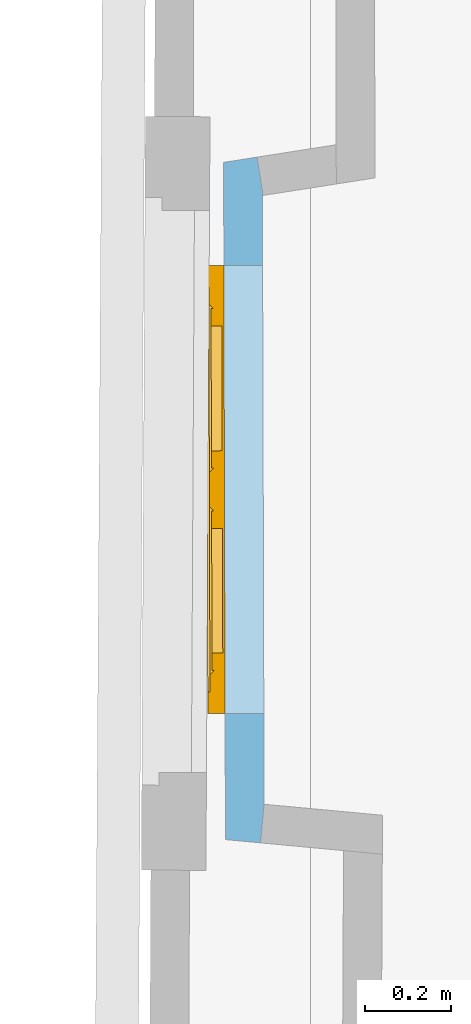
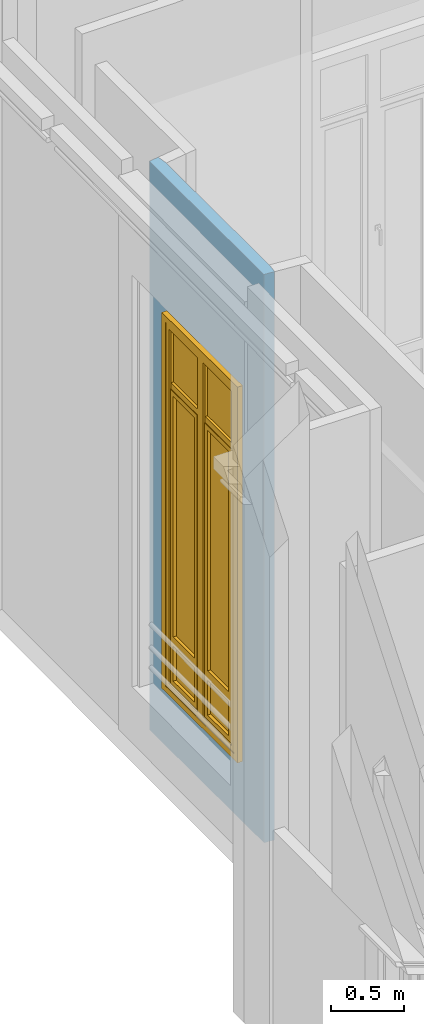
# One storey, part 49 of 97: 1 window, 2 openings, plus 1 element that does not belong to this part.
"""IFC2X3 building model written with IfcOpenShell, lengths in centimetres."""

from ifc_helpers import new_model, entity, si_unit, converted_unit, direction, frame, origin, origin_with_axes, place, context, subcontext, project, spatial, polyline, outline, extrude, faceted_brep, shape, source, transform, mapped, material, material_list, layer, layer_set, layer_usage, type_object, element, fill, save


model = new_model("IFC2X3")

# Units and contexts
model_context = context("Model", 3, precision=0.0001, world=origin(), true_north=direction((0.225632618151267, 0.974212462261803, 0.0)))
body_context = subcontext(model_context, "Body", "Model", "MODEL_VIEW")
footprint_context = subcontext(model_context, "FootPrint", "Model", "MODEL_VIEW")
profile_context = subcontext(model_context, "Profile", "Model", "MODEL_VIEW")
ifc_project = project(units=[si_unit("LENGTHUNIT", "METRE", prefix="CENTI"), si_unit("AREAUNIT", "SQUARE_METRE", prefix="CENTI"), si_unit("VOLUMEUNIT", "CUBIC_METRE", prefix="CENTI"), converted_unit("PLANEANGLEUNIT", "DEGREE", entity("IfcRatioMeasure", 0.0174532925), si_unit("PLANEANGLEUNIT", "RADIAN"), dimensions=[0, 0, 0, 0, 0, 0, 0])], contexts=[model_context])

# Site, building, storey
site_placement = place(None, origin_with_axes())
site = spatial("IfcSite", under=ifc_project, at=site_placement, Name="Default Site", CompositionType="ELEMENT")
building_placement = place(site_placement, origin_with_axes())
building = spatial("IfcBuilding", under=site, at=building_placement, Name="Default Building", CompositionType="ELEMENT")
storey_placement = place(building_placement, origin_with_axes())
storey = spatial("IfcBuildingStorey", under=building, at=storey_placement, Name="Rez-de-chaussée", CompositionType="ELEMENT", Elevation=0.0)

# Wall, openings, window
ifc_material_1 = material(Name="<aucun>")
ifc_layer = layer(ifc_material_1, 9.0)
ifc_layer_set = layer_set([ifc_layer], Name="default")
ifc_layer_usage = layer_usage(ifc_layer_set, "AXIS2", "POSITIVE", -4.5)
wall_type = type_object("IfcWallType", Name="default 90", PredefinedType="NOTDEFINED", material=ifc_layer_set)
wall_placement = place(storey_placement, frame((-1235.89489625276, 383.681081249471, 0.0128503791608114), z_axis=(0.0, 0.0, 1.0), x_axis=(-0.00272817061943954, 0.999996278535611, 0.0)))
wall = element("IfcWallStandardCase", 1, at=wall_placement, inside=storey, type_object=wall_type, material=ifc_layer_usage, Name="Enveloppe 668042", context=body_context, shape_type="SweptSolid", body=[
    extrude(outline(polyline([(153.053939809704, 4.49999999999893), (-4.16995399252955, 4.50000000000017), (-4.95028015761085, -3.64130513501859), (4.00866191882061, -4.49999999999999), (146.373623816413, -4.50000000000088), (154.252029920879, -3.28800236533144), (153.053939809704, 4.49999999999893)])), frame((0.0, 0.0, -5.42101086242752e-18), z_axis=(0.0, 0.0, 1.0), x_axis=(1.0, 0.0, 0.0)), (0.0, 0.0, 1.0), 477.795358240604),
])
opening_1_placement = place(wall_placement, frame((16.1122693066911, -2.27373675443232e-13, 0.0), z_axis=(0.0, 0.0, 1.0), x_axis=(-1.0, 4.64689051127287e-15, 0.0)))
cartesian_point_1 = entity("IfcCartesianPoint", [0.0, 0.0, 50.0])
cartesian_point_2 = entity("IfcCartesianPoint", [-122.0, -4.49999999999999])
element("IfcOpeningElement", 2, at=opening_1_placement, cuts=wall, Name="Baie 30045", ObjectType="Recess", shapes=[
    shape(body_context, "Body", "Brep", [faceted_brep([(1.09622209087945e-05, 24.5000024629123, -4.62607735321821e-10), (-122.000016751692, 24.5000024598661, -4.62607735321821e-10), (-122.000016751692, 24.5000024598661, 50.0000003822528), (1.09622209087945e-05, 24.5000024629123, 50.0000003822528), (1.09627452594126e-05, 3.50001586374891, 50.0000003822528), (1.09627452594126e-05, 3.50001586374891, -4.62607735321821e-10), (1.14003323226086e-05, 3.50001586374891, -4.62607735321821e-10), (-121.999992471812, 3.50002035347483, -4.62607735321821e-10), (-122.000016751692, 24.5000070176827, -4.62607735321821e-10), (-122.000016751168, 3.50002035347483, -4.62607735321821e-10), (-122.000016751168, 3.50002035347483, 50.0000003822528), (-122.000016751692, 24.5000070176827, 50.0000003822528), (-121.999992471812, 3.50002035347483, 50.0000003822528), (1.14003323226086e-05, 3.50001586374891, 50.0000003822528), (1.14003323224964e-05, 3.50002035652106, -4.62607735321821e-10), (1.14003323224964e-05, 3.50002035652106, 50.0000003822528)], [[[0, 1, 2, 3]], [[3, 4, 5, 0]], [[0, 6, 7, 8]], [[8, 9, 10, 11]], [[11, 12, 13, 3]], [[12, 7, 14, 15]]])]),
    shape(profile_context, "Profile", "GeometricCurveSet", [entity("IfcGeometricCurveSet", [entity("IfcPolyline", [cartesian_point_1, entity("IfcCartesianPoint", [0.0, 0.0, 0.0]), entity("IfcCartesianPoint", [-122.0, 0.0, 0.0]), entity("IfcCartesianPoint", [-122.0, 0.0, 50.0]), cartesian_point_1])])]),
    shape(footprint_context, "FootPrint", "GeometricCurveSet", [entity("IfcGeometricCurveSet", [entity("IfcPolyline", [cartesian_point_2, entity("IfcCartesianPoint", [0.0, -4.49999999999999]), entity("IfcCartesianPoint", [-8.88178419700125e-14, 4.49999999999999]), entity("IfcCartesianPoint", [-122.0, 4.50000000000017]), cartesian_point_2])])]),
])
opening_2_placement = place(wall_placement, frame((25.1095202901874, -2.27373675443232e-13, 50.7151902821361), z_axis=(0.0, 0.0, 1.0), x_axis=(-1.0, 4.64689051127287e-15, 0.0)))
cartesian_point_3 = entity("IfcCartesianPoint", [-8.88178419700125e-14, 0.0, 316.0])
cartesian_point_4 = entity("IfcCartesianPoint", [-104.0, -4.49999999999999])
opening_2 = element("IfcOpeningElement", 3, at=opening_2_placement, cuts=wall, Name="4294966454_11", ObjectType="Opening", shapes=[
    shape(body_context, "Body", "SweptSolid", [extrude(outline(polyline([(8.88178419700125e-14, 316.0), (8.88178419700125e-14, 1.11022302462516e-14), (104.0, 1.11022302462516e-14), (104.0, 316.0), (8.88178419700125e-14, 316.0)])), frame((0.0, -14.5, 0.0), z_axis=(0.0, 1.0, 0.0), x_axis=(-1.0, 0.0, 0.0)), (0.0, 0.0, 1.0), 29.0)]),
    shape(profile_context, "Profile", "GeometricCurveSet", [entity("IfcGeometricCurveSet", [entity("IfcPolyline", [cartesian_point_3, entity("IfcCartesianPoint", [-8.88178419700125e-14, 0.0, 1.11022302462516e-14]), entity("IfcCartesianPoint", [-104.0, -1.77635683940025e-13, 1.11022302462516e-14]), entity("IfcCartesianPoint", [-104.0, -1.77635683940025e-13, 316.0]), cartesian_point_3])])]),
    shape(footprint_context, "FootPrint", "GeometricCurveSet", [entity("IfcGeometricCurveSet", [entity("IfcPolyline", [cartesian_point_4, entity("IfcCartesianPoint", [-8.88178419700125e-14, -4.49999999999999]), entity("IfcCartesianPoint", [0.0, 4.49999999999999]), entity("IfcCartesianPoint", [-104.0, 4.49999999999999]), cartesian_point_4])])]),
])
ifc_material_2 = material(Name="Transparent")
ifc_material_3 = material(Name="Blanc trafic")
ifc_material_4 = material(Name="Aluminium satiné")
ifc_material_5 = material(Name="Blanc trafic")
ifc_material_list = material_list([ifc_material_2, ifc_material_3, ifc_material_4, ifc_material_5])
window_style = type_object("IfcWindowStyle", Name="FN[R] 2VB[2V] MM", ConstructionType="NOTDEFINED", OperationType="NOTDEFINED", ParameterTakesPrecedence=False, Sizeable=False, material=ifc_material_list)
shared_shape = source(origin_with_axes(), body_context, "Body", "Brep", [
    faceted_brep([(-46.9999998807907, 310.999989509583, -3.99999991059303), (-46.9999998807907, 310.999989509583, 3.99999991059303), (-46.9999998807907, 5.00000007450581, 3.99999991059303), (-46.9999998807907, 5.00000007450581, -3.99999991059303), (-51.9999980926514, 316.000008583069, 3.99999991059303), (-51.9999980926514, 1.11022302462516e-14, 3.99999991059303), (-51.9999980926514, 316.000008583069, -3.99999991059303), (-51.9999980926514, 1.11022302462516e-14, -3.99999991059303), (46.9999998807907, 5.0000000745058, 3.99999991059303), (46.9999998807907, 5.0000000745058, -3.99999991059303), (51.9999980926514, 1.11022302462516e-14, 3.99999991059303), (46.9999998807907, 5.00000007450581, 3.99999991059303), (51.9999980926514, 1.11022302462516e-14, -3.99999991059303), (46.9999998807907, 5.00000007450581, -3.99999991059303), (46.9999998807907, 310.999989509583, 3.99999991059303), (46.9999998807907, 310.999989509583, -3.99999991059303), (51.9999980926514, 316.000008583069, 3.99999991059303), (51.9999980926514, 316.000008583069, -3.99999991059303)], [[[0, 1, 2, 3]], [[1, 4, 5, 2]], [[4, 6, 7, 5]], [[6, 0, 3, 7]], [[3, 2, 8, 9]], [[2, 5, 10, 11]], [[5, 7, 12, 10]], [[7, 3, 13, 12]], [[13, 11, 14, 15]], [[11, 10, 16, 14]], [[10, 12, 17, 16]], [[12, 13, 15, 17]], [[15, 14, 1, 0]], [[14, 16, 4, 1]], [[16, 17, 6, 4]], [[17, 15, 0, 6]]]),
    faceted_brep([(-43.0000007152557, 306.99999332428, -3.50000001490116), (-41.9999997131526, 305.999994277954, -2.49999901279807), (-41.9999997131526, 10.0000001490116, -2.49999901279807), (-43.0000007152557, 9.00000035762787, -3.50000001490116), (-41.9999986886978, 305.999994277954, -2.5000000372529), (-41.9999986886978, 305.999994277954, 3.50000001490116), (-41.9999986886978, 10.0000001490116, 3.50000001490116), (-41.9999986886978, 10.0000001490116, -2.5000000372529), (-46.9999998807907, 310.999989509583, 3.50000001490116), (-46.9999998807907, 5.00000007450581, 3.50000001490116), (-46.9999998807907, 310.999989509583, -3.50000001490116), (-46.9999998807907, 5.00000007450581, -3.50000001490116), (-41.9999986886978, 10.0000002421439, -2.50000013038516), (-5.00000007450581, 10.0000002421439, -2.50000013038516), (-3.99999991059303, 9.00000035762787, -3.50000001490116), (-5.00000007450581, 10.0000001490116, 3.50000001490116), (-5.00000007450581, 10.0000001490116, -2.5000000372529), (5.55111512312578e-15, 5.00000007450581, 3.50000001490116), (5.55111512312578e-15, 5.00000007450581, -3.50000001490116), (-4.99999998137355, 10.0000001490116, -2.49999994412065), (-4.99999998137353, 305.999994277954, -2.49999994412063), (-3.99999991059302, 306.99999332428, -3.50000001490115), (-5.00000007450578, 305.999994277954, 3.50000001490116), (-5.00000007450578, 305.999994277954, -2.5000000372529), (2.22044604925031e-14, 310.999989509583, 3.50000001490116), (-5.00000007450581, 305.999994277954, 3.50000001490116), (2.22044599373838e-14, 310.999989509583, -3.50000001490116), (2.22044599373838e-14, 310.999989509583, 3.50000001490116), (-3.99999991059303, 306.99999332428, -3.50000001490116), (2.22044604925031e-14, 310.999989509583, -3.50000001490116), (-5.00000007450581, 305.999993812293, -2.5000005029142), (-41.9999986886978, 305.999993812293, -2.5000005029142), (-5.00000007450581, 305.999994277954, -2.5000000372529)], [[[0, 1, 2, 3]], [[4, 5, 6, 7]], [[5, 8, 9, 6]], [[8, 10, 11, 9]], [[10, 0, 3, 11]], [[3, 12, 13, 14]], [[7, 6, 15, 16]], [[6, 9, 17, 15]], [[9, 11, 18, 17]], [[11, 3, 14, 18]], [[14, 19, 20, 21]], [[16, 15, 22, 23]], [[15, 17, 24, 25]], [[17, 18, 26, 27]], [[18, 14, 28, 29]], [[28, 30, 31, 0]], [[32, 25, 5, 4]], [[25, 24, 8, 5]], [[24, 29, 10, 8]], [[29, 28, 0, 10]]]),
    faceted_brep([(-5.00000007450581, 305.999994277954, -0.499999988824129), (-5.00000007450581, 262.350010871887, -0.499999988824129), (-41.9999986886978, 262.350010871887, -0.499999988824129), (-41.9999986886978, 305.999994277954, -0.499999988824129), (-41.9999986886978, 305.999994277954, 0.499999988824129), (-41.9999986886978, 262.350010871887, 0.499999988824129), (-5.00000007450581, 262.350010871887, 0.499999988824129), (-5.00000007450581, 305.999994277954, 0.499999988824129)], [[[0, 1, 2, 3]], [[4, 5, 6, 7]], [[3, 2, 5, 4]], [[2, 1, 6, 5]], [[1, 0, 7, 6]], [[0, 3, 4, 7]]]),
    faceted_brep([(-5.00000007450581, 257.349991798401, 2.5000000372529), (-5.00000007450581, 257.349991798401, -2.5000000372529), (-5.00000007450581, 262.350010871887, -2.5000000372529), (-5.00000007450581, 262.350010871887, 2.5000000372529), (-41.9999986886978, 262.350010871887, 2.5000000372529), (-41.9999986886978, 262.350010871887, -2.5000000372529), (-41.9999986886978, 257.349991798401, -2.5000000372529), (-41.9999986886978, 257.349991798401, 2.5000000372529)], [[[0, 1, 2, 3]], [[4, 5, 6, 7]], [[3, 2, 5, 4]], [[2, 1, 6, 5]], [[1, 0, 7, 6]], [[0, 3, 4, 7]]]),
    faceted_brep([(-37.9999995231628, 253.349995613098, -2.99999993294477), (-37.9999995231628, 253.349995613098, 2.99999993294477), (-37.9999995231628, 51.1025011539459, 2.99999993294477), (-37.9999995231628, 51.1025011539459, -2.99999993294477), (-41.9999986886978, 257.349991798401, 2.99999993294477), (-41.9999986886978, 47.1024990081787, 2.99999993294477), (-41.9999986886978, 257.349991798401, -2.99999993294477), (-41.9999986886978, 47.1024990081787, -2.99999993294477), (-9.00000035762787, 51.1025011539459, 2.99999993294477), (-9.00000035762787, 51.1025011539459, -2.99999993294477), (-5.00000007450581, 47.1024990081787, 2.99999993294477), (-5.00000007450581, 47.1024990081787, -2.99999993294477), (-9.00000035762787, 253.349995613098, 2.99999993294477), (-9.00000035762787, 253.349995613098, -2.99999993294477), (-5.00000007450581, 257.349991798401, 2.99999993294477), (-5.00000007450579, 257.349991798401, -2.99999993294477), (-5.00000007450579, 257.349991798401, 2.99999993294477), (-5.00000007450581, 257.349991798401, -2.99999993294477)], [[[0, 1, 2, 3]], [[1, 4, 5, 2]], [[4, 6, 7, 5]], [[6, 0, 3, 7]], [[3, 2, 8, 9]], [[2, 5, 10, 8]], [[5, 7, 11, 10]], [[7, 3, 9, 11]], [[9, 8, 12, 13]], [[8, 10, 14, 12]], [[10, 11, 15, 16]], [[11, 9, 13, 17]], [[13, 12, 1, 0]], [[12, 14, 4, 1]], [[14, 17, 6, 4]], [[17, 13, 0, 6]]]),
    faceted_brep([(-9.00000035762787, 253.349995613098, -0.499999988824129), (-9.00000035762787, 51.1025011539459, -0.499999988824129), (-37.9999995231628, 51.1025011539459, -0.499999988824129), (-37.9999995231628, 253.349995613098, -0.499999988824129), (-37.9999995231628, 253.349995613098, 0.499999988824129), (-37.9999995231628, 51.1025011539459, 0.499999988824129), (-9.00000035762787, 51.1025011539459, 0.499999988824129), (-9.00000035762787, 253.349995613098, 0.499999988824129), (-9.00000035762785, 253.349995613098, -0.499999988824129), (-9.00000035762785, 253.349995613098, 0.499999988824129)], [[[0, 1, 2, 3]], [[4, 5, 6, 7]], [[3, 2, 5, 4]], [[2, 1, 6, 5]], [[1, 8, 9, 6]], [[0, 3, 4, 7]]]),
    faceted_brep([(-37.9999995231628, 43.1024998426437, -2.99999993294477), (-37.9999995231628, 43.1024998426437, 2.99999993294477), (-37.9999995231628, 14.0000000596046, 2.99999993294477), (-37.9999995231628, 14.0000000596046, -2.99999993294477), (-41.9999986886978, 47.1024990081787, 2.99999993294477), (-41.9999986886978, 10.0000001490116, 2.99999993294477), (-41.9999986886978, 47.1024990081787, -2.99999993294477), (-41.9999986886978, 10.0000001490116, -2.99999993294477), (-9.00000035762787, 14.0000000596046, 2.99999993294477), (-9.00000035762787, 14.0000000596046, -2.99999993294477), (-5.00000007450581, 10.0000001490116, 2.99999993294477), (-5.00000007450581, 10.0000001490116, -2.99999993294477), (-9.00000035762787, 43.1024998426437, 2.99999993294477), (-9.00000035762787, 43.1024998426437, -2.99999993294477), (-5.00000007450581, 47.1024990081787, 2.99999993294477), (-5.00000007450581, 47.1024990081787, -2.99999993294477)], [[[0, 1, 2, 3]], [[1, 4, 5, 2]], [[4, 6, 7, 5]], [[6, 0, 3, 7]], [[3, 2, 8, 9]], [[2, 5, 10, 8]], [[5, 7, 11, 10]], [[7, 3, 9, 11]], [[9, 8, 12, 13]], [[8, 10, 14, 12]], [[10, 11, 15, 14]], [[11, 9, 13, 15]], [[13, 12, 1, 0]], [[12, 14, 4, 1]], [[14, 15, 6, 4]], [[15, 13, 0, 6]]]),
    faceted_brep([(-9.00000035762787, 43.1024998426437, -0.499999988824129), (-9.00000035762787, 14.0000000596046, -0.499999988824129), (-37.9999995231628, 14.0000000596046, -0.499999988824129), (-37.9999995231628, 43.1024998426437, -0.499999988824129), (-37.9999995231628, 43.1024998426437, 0.499999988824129), (-37.9999995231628, 14.0000000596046, 0.499999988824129), (-9.00000035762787, 14.0000000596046, 0.499999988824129), (-9.00000035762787, 43.1024998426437, 0.499999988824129)], [[[0, 1, 2, 3]], [[4, 5, 6, 7]], [[3, 2, 5, 4]], [[2, 1, 6, 5]], [[1, 0, 7, 6]], [[0, 3, 4, 7]]]),
    faceted_brep([(3.99999991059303, 306.99999332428, -3.50000001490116), (4.99999998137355, 305.999994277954, -2.49999994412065), (4.99999998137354, 10.0000001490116, -2.49999994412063), (3.99999991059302, 9.00000035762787, -3.50000001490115), (5.00000007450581, 305.999994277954, -2.5000000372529), (5.00000007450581, 305.999994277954, 3.50000001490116), (5.00000007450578, 10.0000001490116, 3.50000001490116), (5.00000007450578, 10.0000001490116, -2.5000000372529), (2.22044604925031e-14, 310.999989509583, 3.50000001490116), (5.55111512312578e-15, 5.00000007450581, 3.50000001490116), (5.00000007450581, 10.0000001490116, 3.50000001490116), (2.22044604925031e-14, 310.999989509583, -3.50000001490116), (5.55111567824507e-15, 5.00000007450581, -3.50000001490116), (5.55111567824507e-15, 5.00000007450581, 3.50000001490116), (3.99999991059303, 9.00000035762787, -3.50000001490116), (5.55111512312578e-15, 5.00000007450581, -3.50000001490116), (5.00000007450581, 10.0000002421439, -2.50000013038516), (41.9999986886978, 10.0000002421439, -2.50000013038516), (43.0000007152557, 9.00000035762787, -3.50000001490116), (5.00000007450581, 10.0000001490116, -2.5000000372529), (41.9999986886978, 10.0000001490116, 3.50000001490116), (41.9999986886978, 10.0000001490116, -2.5000000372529), (46.9999998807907, 5.00000007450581, 3.50000001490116), (46.9999998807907, 5.00000007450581, -3.50000001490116), (41.9999997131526, 10.0000001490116, -2.49999901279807), (41.9999997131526, 305.999994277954, -2.49999901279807), (43.0000007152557, 306.99999332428, -3.50000001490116), (41.9999986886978, 305.999994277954, 3.50000001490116), (41.9999986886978, 305.999994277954, -2.5000000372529), (46.9999998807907, 310.999989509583, 3.50000001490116), (46.9999998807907, 310.999989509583, -3.50000001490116), (41.9999986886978, 305.999993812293, -2.5000005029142), (5.00000007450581, 305.999993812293, -2.5000005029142)], [[[0, 1, 2, 3]], [[4, 5, 6, 7]], [[5, 8, 9, 10]], [[8, 11, 12, 13]], [[11, 0, 14, 15]], [[14, 16, 17, 18]], [[19, 10, 20, 21]], [[10, 9, 22, 20]], [[9, 15, 23, 22]], [[15, 14, 18, 23]], [[18, 24, 25, 26]], [[21, 20, 27, 28]], [[20, 22, 29, 27]], [[22, 23, 30, 29]], [[23, 18, 26, 30]], [[26, 31, 32, 0]], [[28, 27, 5, 4]], [[27, 29, 8, 5]], [[29, 30, 11, 8]], [[30, 26, 0, 11]]]),
    faceted_brep([(4.50000017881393, 160.000002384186, 3.50000001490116), (4.50000017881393, 155.999994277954, 3.50000001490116), (0.499999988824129, 155.999994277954, 3.50000001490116), (0.499999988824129, 160.000002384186, 3.50000001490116), (0.499999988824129, 160.000002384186, 4.30000014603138), (0.499999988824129, 155.999994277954, 4.30000014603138), (4.50000017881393, 155.999994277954, 4.30000014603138), (4.50000017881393, 160.000002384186, 4.30000014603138)], [[[0, 1, 2, 3]], [[4, 5, 6, 7]], [[3, 2, 5, 4]], [[2, 1, 6, 5]], [[1, 0, 7, 6]], [[0, 3, 4, 7]]]),
    faceted_brep([(3.24999988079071, 158.500003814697, 4.30000014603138), (3.24999988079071, 157.500004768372, 4.30000014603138), (1.75000000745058, 157.500004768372, 4.30000014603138), (1.75000000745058, 158.500003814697, 4.30000014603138), (1.75000000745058, 158.500003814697, 8.29999968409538), (1.75000000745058, 157.500004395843, 7.30000026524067), (3.24999988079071, 157.500004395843, 7.30000026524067), (3.24999988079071, 158.500003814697, 8.29999968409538), (1.75000000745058, 157.500004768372, 7.29999989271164), (3.24999988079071, 157.500004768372, 7.29999989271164)], [[[0, 1, 2, 3]], [[4, 5, 6, 7]], [[3, 2, 8, 4]], [[2, 1, 9, 8]], [[1, 0, 7, 9]], [[0, 3, 4, 7]]]),
    faceted_brep([(3.24999988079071, 158.500003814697, 8.29999968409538), (3.24999988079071, 157.500004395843, 7.30000026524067), (1.75000000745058, 157.500004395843, 7.30000026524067), (1.75000000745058, 158.500003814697, 8.29999968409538), (1.75000000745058, 145.500004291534, 8.29999968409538), (1.75000000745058, 145.500004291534, 7.29999989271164), (3.24999988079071, 145.500004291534, 7.29999989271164), (3.24999988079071, 145.500004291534, 8.29999968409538), (1.75000000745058, 157.500004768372, 7.29999989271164), (3.24999988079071, 157.500004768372, 7.29999989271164)], [[[0, 1, 2, 3]], [[4, 5, 6, 7]], [[3, 8, 5, 4]], [[8, 9, 6, 5]], [[9, 0, 7, 6]], [[0, 3, 4, 7]]]),
    faceted_brep([(41.9999986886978, 305.999994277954, -0.499999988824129), (41.9999986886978, 262.350010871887, -0.499999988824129), (5.00000007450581, 262.350010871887, -0.499999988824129), (5.00000007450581, 305.999994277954, -0.499999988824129), (5.00000007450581, 305.999994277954, 0.499999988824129), (5.00000007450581, 262.350010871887, 0.499999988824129), (41.9999986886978, 262.350010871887, 0.499999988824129), (41.9999986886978, 305.999994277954, 0.499999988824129)], [[[0, 1, 2, 3]], [[4, 5, 6, 7]], [[3, 2, 5, 4]], [[2, 1, 6, 5]], [[1, 0, 7, 6]], [[0, 3, 4, 7]]]),
    faceted_brep([(41.9999986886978, 257.349991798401, 2.5000000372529), (41.9999986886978, 257.349991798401, -2.5000000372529), (41.9999986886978, 262.350010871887, -2.5000000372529), (41.9999986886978, 262.350010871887, 2.5000000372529), (5.00000007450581, 262.350010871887, 2.5000000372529), (5.00000007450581, 262.350010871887, -2.5000000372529), (5.00000007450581, 257.349991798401, -2.5000000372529), (5.00000007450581, 257.349991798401, 2.5000000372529)], [[[0, 1, 2, 3]], [[4, 5, 6, 7]], [[3, 2, 5, 4]], [[2, 1, 6, 5]], [[1, 0, 7, 6]], [[0, 3, 4, 7]]]),
    faceted_brep([(9.00000035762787, 253.349995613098, -2.99999993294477), (9.00000035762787, 253.349995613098, 2.99999993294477), (9.00000035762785, 51.1025011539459, 2.99999993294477), (9.00000035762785, 51.1025011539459, -2.99999993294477), (5.00000007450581, 257.349991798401, 2.99999993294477), (5.00000007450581, 47.1024990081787, 2.99999993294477), (9.00000035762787, 51.1025011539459, 2.99999993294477), (5.00000007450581, 257.349991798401, -2.99999993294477), (5.0000000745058, 47.1024990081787, -2.99999993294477), (5.0000000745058, 47.1024990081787, 2.99999993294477), (9.00000035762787, 51.1025011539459, -2.99999993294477), (5.00000007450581, 47.1024990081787, -2.99999993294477), (37.9999995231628, 51.1025011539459, 2.99999993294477), (37.9999995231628, 51.1025011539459, -2.99999993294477), (41.9999986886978, 47.1024990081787, 2.99999993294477), (41.9999986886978, 47.1024990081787, -2.99999993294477), (37.9999995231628, 253.349995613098, 2.99999993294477), (37.9999995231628, 253.349995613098, -2.99999993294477), (41.9999986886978, 257.349991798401, 2.99999993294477), (41.9999986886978, 257.349991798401, -2.99999993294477)], [[[0, 1, 2, 3]], [[1, 4, 5, 6]], [[4, 7, 8, 9]], [[7, 0, 10, 11]], [[10, 6, 12, 13]], [[6, 5, 14, 12]], [[5, 11, 15, 14]], [[11, 10, 13, 15]], [[13, 12, 16, 17]], [[12, 14, 18, 16]], [[14, 15, 19, 18]], [[15, 13, 17, 19]], [[17, 16, 1, 0]], [[16, 18, 4, 1]], [[18, 19, 7, 4]], [[19, 17, 0, 7]]]),
    faceted_brep([(37.9999995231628, 253.349995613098, -0.499999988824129), (37.9999995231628, 51.1025011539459, -0.499999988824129), (9.00000035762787, 51.1025011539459, -0.499999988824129), (9.00000035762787, 253.349995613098, -0.499999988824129), (9.00000035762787, 253.349995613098, 0.499999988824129), (9.00000035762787, 51.1025011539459, 0.499999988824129), (37.9999995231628, 51.1025011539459, 0.499999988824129), (37.9999995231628, 253.349995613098, 0.499999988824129), (9.00000035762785, 51.1025011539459, -0.499999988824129), (9.00000035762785, 51.1025011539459, 0.499999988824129)], [[[0, 1, 2, 3]], [[4, 5, 6, 7]], [[3, 8, 9, 4]], [[2, 1, 6, 5]], [[1, 0, 7, 6]], [[0, 3, 4, 7]]]),
    faceted_brep([(9.00000035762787, 43.1024998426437, -2.99999993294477), (9.00000035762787, 43.1024998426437, 2.99999993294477), (9.00000035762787, 14.0000000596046, 2.99999993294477), (9.00000035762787, 14.0000000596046, -2.99999993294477), (5.00000007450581, 47.1024990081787, 2.99999993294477), (5.00000007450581, 10.0000001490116, 2.99999993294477), (5.00000007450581, 47.1024990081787, -2.99999993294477), (5.00000007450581, 10.0000001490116, -2.99999993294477), (37.9999995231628, 14.0000000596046, 2.99999993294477), (37.9999995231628, 14.0000000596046, -2.99999993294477), (41.9999986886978, 10.0000001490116, 2.99999993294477), (41.9999986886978, 10.0000001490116, -2.99999993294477), (37.9999995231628, 43.1024998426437, 2.99999993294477), (37.9999995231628, 43.1024998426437, -2.99999993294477), (41.9999986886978, 47.1024990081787, 2.99999993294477), (41.9999986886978, 47.1024990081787, -2.99999993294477)], [[[0, 1, 2, 3]], [[1, 4, 5, 2]], [[4, 6, 7, 5]], [[6, 0, 3, 7]], [[3, 2, 8, 9]], [[2, 5, 10, 8]], [[5, 7, 11, 10]], [[7, 3, 9, 11]], [[9, 8, 12, 13]], [[8, 10, 14, 12]], [[10, 11, 15, 14]], [[11, 9, 13, 15]], [[13, 12, 1, 0]], [[12, 14, 4, 1]], [[14, 15, 6, 4]], [[15, 13, 0, 6]]]),
    faceted_brep([(37.9999995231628, 43.1024998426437, -0.499999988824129), (37.9999995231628, 14.0000000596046, -0.499999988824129), (9.00000035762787, 14.0000000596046, -0.499999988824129), (9.00000035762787, 43.1024998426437, -0.499999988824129), (9.00000035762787, 43.1024998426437, 0.499999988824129), (9.00000035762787, 14.0000000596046, 0.499999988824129), (37.9999995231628, 14.0000000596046, 0.499999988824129), (37.9999995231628, 43.1024998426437, 0.499999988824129)], [[[0, 1, 2, 3]], [[4, 5, 6, 7]], [[3, 2, 5, 4]], [[2, 1, 6, 5]], [[1, 0, 7, 6]], [[0, 3, 4, 7]]]),
])
window_placement = place(opening_2_placement, frame((-104.0, -8.5, -7.105427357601e-15), z_axis=(0.0, 0.0, 1.0), x_axis=(1.0, 0.0, 0.0)))
window = element("IfcWindow", 4, at=window_placement, inside=storey, type_object=window_style, material=ifc_material_list, Name="Fenêtre 23868", OverallHeight=316.0, OverallWidth=104.0, context=body_context, shape_type="MappedRepresentation", body=[
    mapped(shared_shape, transform((51.9999999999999, 3.99999999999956, -1.11022302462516e-14), x_axis=(-1.0, -4.33680868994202e-19, 0.0), y_axis=(0.0, 0.0, 1.0), z_axis=(-4.33680868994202e-19, 1.0, 0.0), scale=1.0, scale2=1.0, scale3=1.0, uniform=False)),
])
fill(opening_2, window)

save(model, "model.ifc")
